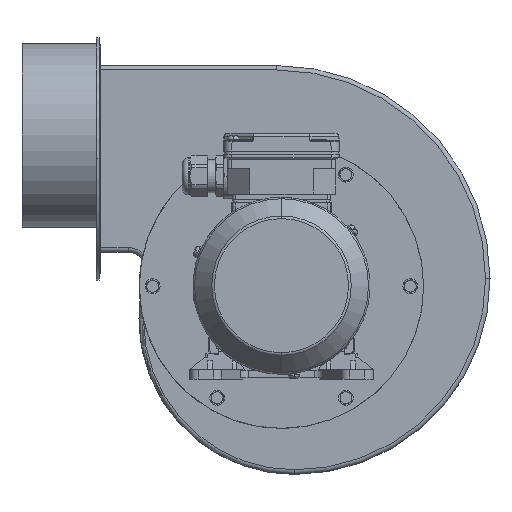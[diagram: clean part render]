
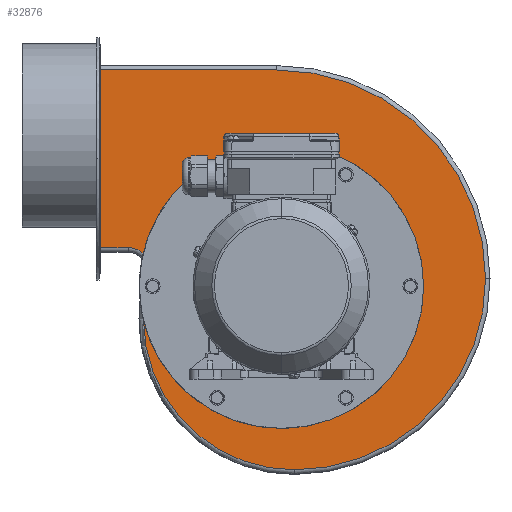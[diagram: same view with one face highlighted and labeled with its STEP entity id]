
A CAD part, top view. The second image highlights one B-rep face of the part: STEP entity #32876.
In plain terms, the highlighted planar face has unit normal (0, 0, 1).
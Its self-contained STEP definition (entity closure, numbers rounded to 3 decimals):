
#13811=CARTESIAN_POINT('',(1822.302,808.266,72.));
#13812=DIRECTION('',(0.,0.,-1.));
#13813=DIRECTION('',(-0.973,0.231,0.));
#13814=AXIS2_PLACEMENT_3D('',#13811,#13812,#13813);
#13816=CARTESIAN_POINT('',(1718.902,819.266,72.));
#13817=DIRECTION('',(0.,0.,-1.));
#13818=DIRECTION('',(0.,1.,0.));
#13819=AXIS2_PLACEMENT_3D('',#13816,#13817,#13818);
#13821=CARTESIAN_POINT('',(1819.102,813.266,72.));
#13822=DIRECTION('',(0.,0.,1.));
#13823=DIRECTION('',(1.,0.,0.));
#13824=AXIS2_PLACEMENT_3D('',#13821,#13822,#13823);
#13826=CARTESIAN_POINT('',(1831.102,813.266,72.));
#13827=DIRECTION('',(0.,0.,1.));
#13828=DIRECTION('',(0.,-1.,0.));
#13829=AXIS2_PLACEMENT_3D('',#13826,#13827,#13828);
#13831=CARTESIAN_POINT('',(1831.102,786.266,72.));
#13832=DIRECTION('',(0.,0.,1.));
#13833=DIRECTION('',(-1.,-0.01,0.));
#13834=AXIS2_PLACEMENT_3D('',#13831,#13832,#13833);
#13836=CARTESIAN_POINT('',(1822.302,808.266,72.));
#13837=DIRECTION('',(0.,0.,-1.));
#13838=DIRECTION('',(1.,0.,0.));
#13839=AXIS2_PLACEMENT_3D('',#13836,#13837,#13838);
#14491=DIRECTION('',(0.,1.,0.));
#14492=VECTOR('',#14491,120.);
#14493=CARTESIAN_POINT('',(1700.102,834.266,72.));
#14494=LINE('',#14493,#14492);
#14507=DIRECTION('',(1.,0.,0.));
#14508=VECTOR('',#14507,119.);
#14509=CARTESIAN_POINT('',(1700.102,954.266,72.));
#14510=LINE('',#14509,#14508);
#14580=DIRECTION('',(-1.,0.,0.));
#14581=VECTOR('',#14580,18.8);
#14582=CARTESIAN_POINT('',(1718.902,834.266,72.));
#14583=LINE('',#14582,#14581);
#15324=CARTESIAN_POINT('',(1831.102,684.266,72.));
#15325=VERTEX_POINT('',#15324);
#15326=CARTESIAN_POINT('',(1729.107,785.228,72.));
#15327=VERTEX_POINT('',#15326);
#17215=CARTESIAN_POINT('',(1728.9,830.448,72.));
#17216=CARTESIAN_POINT('',(1918.302,808.266,72.));
#17217=VERTEX_POINT('',#17215);
#17218=VERTEX_POINT('',#17216);
#17219=CARTESIAN_POINT('',(1960.102,813.266,72.));
#17220=VERTEX_POINT('',#17219);
#17221=CARTESIAN_POINT('',(1819.102,954.266,72.));
#17222=VERTEX_POINT('',#17221);
#17223=CARTESIAN_POINT('',(1700.102,954.266,72.));
#17224=VERTEX_POINT('',#17223);
#17225=CARTESIAN_POINT('',(1700.102,834.266,72.));
#17226=VERTEX_POINT('',#17225);
#17227=CARTESIAN_POINT('',(1718.902,834.266,72.));
#17228=VERTEX_POINT('',#17227);
#32854=CARTESIAN_POINT('',(1815.582,832.425,72.));
#32855=DIRECTION('',(0.,0.,1.));
#32856=DIRECTION('',(1.,0.,0.));
#32857=AXIS2_PLACEMENT_3D('',#32854,#32855,#32856);
#32858=PLANE('',#32857);
#32859=ORIENTED_EDGE('',*,*,#32798,.F.);
#32861=ORIENTED_EDGE('',*,*,#32860,.F.);
#32863=ORIENTED_EDGE('',*,*,#32862,.T.);
#32865=ORIENTED_EDGE('',*,*,#32864,.T.);
#32867=ORIENTED_EDGE('',*,*,#32866,.T.);
#32869=ORIENTED_EDGE('',*,*,#32868,.F.);
#32871=ORIENTED_EDGE('',*,*,#32870,.F.);
#32872=ORIENTED_EDGE('',*,*,#20147,.F.);
#32873=ORIENTED_EDGE('',*,*,#32776,.F.);
#32874=EDGE_LOOP('',(#32859,#32861,#32863,#32865,#32867,#32869,#32871,#32872,
#32873));
#32875=FACE_OUTER_BOUND('',#32874,.F.);
#13815=CIRCLE('',#13814,96.);
#13820=CIRCLE('',#13819,15.);
#13825=CIRCLE('',#13824,141.);
#13830=CIRCLE('',#13829,129.);
#13835=CIRCLE('',#13834,102.);
#13840=CIRCLE('',#13839,96.);
#20147=EDGE_CURVE('',#15327,#15325,#13835,.T.);
#32776=EDGE_CURVE('',#17218,#15327,#13840,.T.);
#32798=EDGE_CURVE('',#17217,#17218,#13815,.T.);
#32860=EDGE_CURVE('',#17228,#17217,#13820,.T.);
#32862=EDGE_CURVE('',#17228,#17226,#14583,.T.);
#32864=EDGE_CURVE('',#17226,#17224,#14494,.T.);
#32866=EDGE_CURVE('',#17224,#17222,#14510,.T.);
#32868=EDGE_CURVE('',#17220,#17222,#13825,.T.);
#32870=EDGE_CURVE('',#15325,#17220,#13830,.T.);
#32876=ADVANCED_FACE('',(#32875),#32858,.T.);
